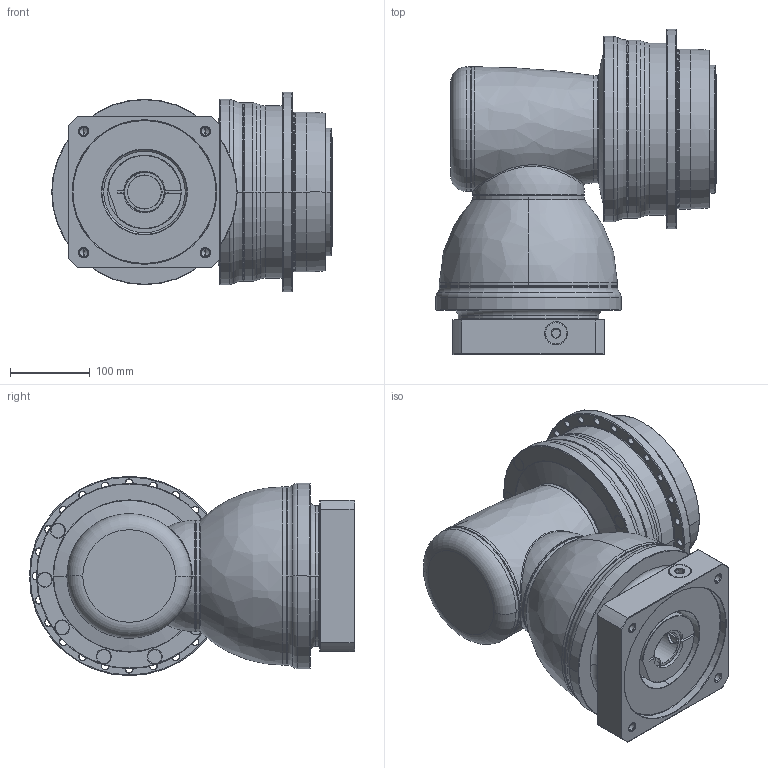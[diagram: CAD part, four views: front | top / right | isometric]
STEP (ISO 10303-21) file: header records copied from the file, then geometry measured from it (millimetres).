
FILE_DESCRIPTION((''),'2;1');
FILE_NAME('APK200_2ST_SBG_42-P0409A00201_ASM','2018-10-30T',('d01226'),(''),'PRO/ENGINEER BY PARAMETRIC TECHNOLOGY CORPORATION, 2015240','PRO/ENGINEER BY PARAMETRIC TECHNOLOGY CORPORATION, 2015240','');
FILE_SCHEMA(('CONFIG_CONTROL_DESIGN'));
Length unit declared in the file: millimetre
Products named in the file (13): P0278601003; P0359601103; P1211600001; P1802610001; P1018600002; P1365600001; P1007601001; P1318610301; P0503A00012; P0912603001; P0409A00201; 21711422019; APK200_2ST_SBG_42-P0409A00201_ASM
Assembly tree (12 placements, depth 2):
  APK200_2ST_SBG_42-P0409A00201_ASM
    P0278601003
    P0359601103
    P1211600001
    P1802610001
    P1018600002
    P1365600001
    P1007601001
    P1318610301
    P0503A00012
    P0912603001
    P0409A00201
    21711422019
Bounding box: 351 x 406.75 x 249.5 mm (x, y, z)
Volume: 15308160.7 mm3; surface area: 1096076.7 mm2
Topology: 13 solids, 38 shells, 870 faces, 2027 edges, 1229 vertices
Faces by surface type: cylinder 358, cone 240, plane 154, torus 90, bspline 26, sphere 2
Entity records: 30877 total; most frequent: CARTESIAN_POINT 10249, DIRECTION 4777, ORIENTED_EDGE 3864, AXIS2_PLACEMENT_3D 2056, EDGE_CURVE 1983, VERTEX_POINT 1229, CIRCLE 1177, EDGE_LOOP 1024
